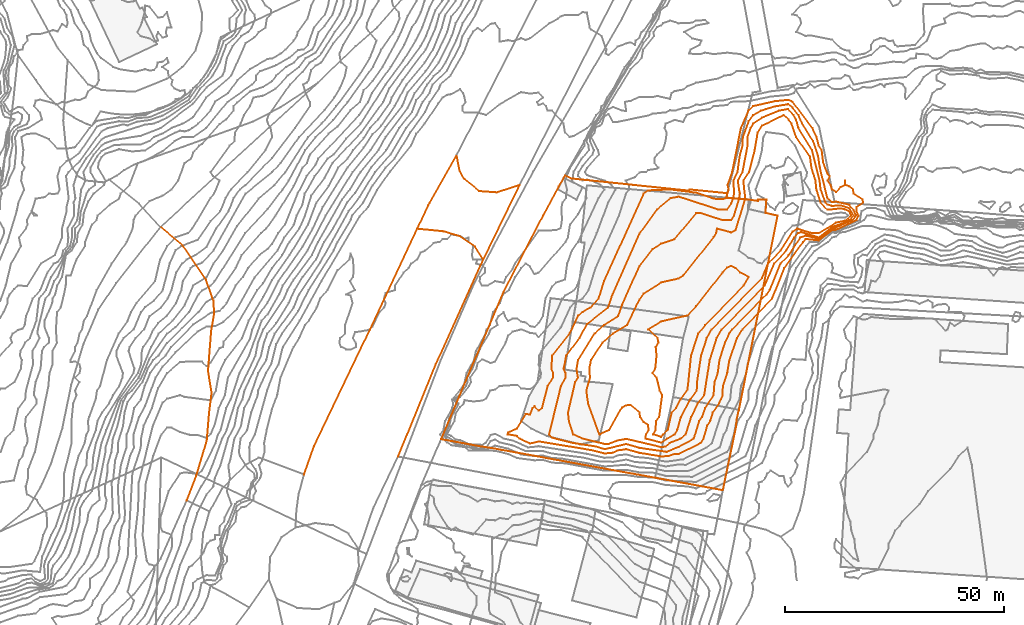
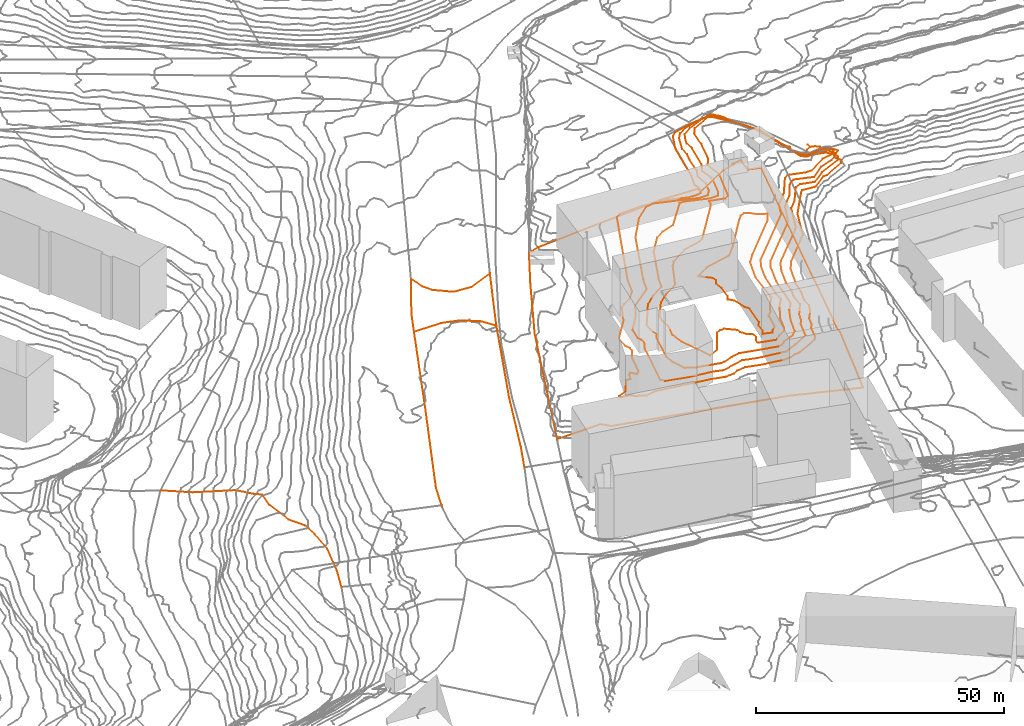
# Not in any storey, part 224 of 419: 13 proxies.
"""IFC2X3 model written with IfcOpenShell, lengths in metres."""

from ifc_helpers import new_model, entity, si_unit, frame, origin_with_axes, place, context, subcontext, project, element, save


model = new_model("IFC2X3")

# Units and contexts
model_context = context("Model", 3, precision=1e-05, world=origin_with_axes())
body_context = subcontext(model_context, "Body", "Model", "MODEL_VIEW")
ifc_project = project(units=[si_unit("AREAUNIT", "SQUARE_METRE"), si_unit("LENGTHUNIT", "METRE")], contexts=[model_context])

# Proxies
proxy_1_placement = place(None, frame((757.2920204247, 462.8976909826, 75.9), z_axis=(0.0, 0.0, 1.0), x_axis=(1.0, 0.0, 0.0)))
element("IfcBuildingElementProxy", 1, at=proxy_1_placement, Name="Route 56", ObjectType="NOTDEFINED", context=body_context, shape_type="GeometricCurveSet", body=[
    entity("IfcGeometricCurveSet", [entity("IfcPolyline", [entity("IfcCartesianPoint", [15.1000000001, -7.0, 0.4]), entity("IfcCartesianPoint", [13.2000000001, -4.0999999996, 0.4]), entity("IfcCartesianPoint", [9.7000000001, -1.7000000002, 0.4]), entity("IfcCartesianPoint", [6.0, -0.5999999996, 0.4]), entity("IfcCartesianPoint", [0.0, 0.0, 0.0])])]),
])
proxy_2_placement = place(None, frame((766.2920204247, 479.6976909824, 75.5), z_axis=(0.0, 0.0, 1.0), x_axis=(1.0, 0.0, 0.0)))
element("IfcBuildingElementProxy", 2, at=proxy_2_placement, Name="Route 203", ObjectType="NOTDEFINED", context=body_context, shape_type="GeometricCurveSet", body=[
    entity("IfcGeometricCurveSet", [entity("IfcPolyline", [entity("IfcCartesianPoint", [0.0, 0.0, 0.0]), entity("IfcCartesianPoint", [0.7000000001, -3.5, 0.0]), entity("IfcCartesianPoint", [1.8, -5.5, 0.0]), entity("IfcCartesianPoint", [5.2000000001, -8.2000000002, 0.0]), entity("IfcCartesianPoint", [9.2000000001, -8.5, 0.0]), entity("IfcCartesianPoint", [14.4, -6.7999999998, 0.5])])]),
])
proxy_3_placement = place(None, frame((752.8920204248, 410.7976909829, 75.7), z_axis=(0.0, 0.0, 1.0), x_axis=(1.0, 0.0, 0.0)))
element("IfcBuildingElementProxy", 3, at=proxy_3_placement, Name="Route 269", ObjectType="NOTDEFINED", context=body_context, shape_type="GeometricCurveSet", body=[
    entity("IfcGeometricCurveSet", [entity("IfcPolyline", [entity("IfcCartesianPoint", [19.5, 45.0999999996, 0.6]), entity("IfcCartesianPoint", [8.6, 21.0, 1.2]), entity("IfcCartesianPoint", [2.1, 5.0999999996, 1.2]), entity("IfcCartesianPoint", [0.0, 0.0, 0.0])])]),
])
proxy_4_placement = place(None, frame((698.5920204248, 463.2976909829, 57.2), z_axis=(0.0, 0.0, 1.0), x_axis=(1.0, 0.0, 0.0)))
element("IfcBuildingElementProxy", 4, at=proxy_4_placement, Name="Route 276", ObjectType="NOTDEFINED", context=body_context, shape_type="GeometricCurveSet", body=[
    entity("IfcGeometricCurveSet", [entity("IfcPolyline", [entity("IfcCartesianPoint", [0.0, 0.0, 0.0]), entity("IfcCartesianPoint", [5.1, -4.2000000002, 0.3]), entity("IfcCartesianPoint", [10.4, -12.0, 3.7]), entity("IfcCartesianPoint", [12.1, -16.8000000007, 5.1]), entity("IfcCartesianPoint", [12.3, -19.7000000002, 6.6]), entity("IfcCartesianPoint", [11.6, -23.8000000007, 6.8]), entity("IfcCartesianPoint", [10.9, -32.8000000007, 8.9]), entity("IfcCartesianPoint", [11.7, -37.9000000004, 10.3]), entity("IfcCartesianPoint", [11.1, -42.8000000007, 11.4]), entity("IfcCartesianPoint", [10.6, -48.8000000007, 11.6]), entity("IfcCartesianPoint", [8.2, -56.8000000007, 12.0]), entity("IfcCartesianPoint", [6.0, -62.5, 12.1])])]),
])
proxy_5_placement = place(None, frame((757.2920204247, 462.8976909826, 75.9), z_axis=(0.0, 0.0, 1.0), x_axis=(1.0, 0.0, 0.0)))
element("IfcBuildingElementProxy", 5, at=proxy_5_placement, Name="Route 295", ObjectType="NOTDEFINED", context=body_context, shape_type="GeometricCurveSet", body=[
    entity("IfcGeometricCurveSet", [entity("IfcPolyline", [entity("IfcCartesianPoint", [9.0, 16.7999999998, -0.4]), entity("IfcCartesianPoint", [2.8, 5.9000000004, 0.1]), entity("IfcCartesianPoint", [2.5, 5.2999999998, 0.1]), entity("IfcCartesianPoint", [0.0, 0.0, 0.0])])]),
])
proxy_6_placement = place(None, frame((731.3920204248, 406.6976909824, 76.0), z_axis=(0.0, 0.0, 1.0), x_axis=(1.0, 0.0, 0.0)))
element("IfcBuildingElementProxy", 6, at=proxy_6_placement, Name="Route 300", ObjectType="NOTDEFINED", context=body_context, shape_type="GeometricCurveSet", body=[
    entity("IfcGeometricCurveSet", [entity("IfcPolyline", [entity("IfcCartesianPoint", [25.8999999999, 56.2000000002, -0.1]), entity("IfcCartesianPoint", [15.1, 33.2000000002, -0.1]), entity("IfcCartesianPoint", [2.2999999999, 6.5, 0.0]), entity("IfcCartesianPoint", [0.0, 0.0, 0.0])])]),
])
proxy_7_placement = place(None, frame((772.3920204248, 455.8976909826, 76.3), z_axis=(0.0, 0.0, 1.0), x_axis=(1.0, 0.0, 0.0)))
element("IfcBuildingElementProxy", 7, at=proxy_7_placement, Name="Route 303", ObjectType="NOTDEFINED", context=body_context, shape_type="GeometricCurveSet", body=[
    entity("IfcGeometricCurveSet", [entity("IfcPolyline", [entity("IfcCartesianPoint", [8.2999999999, 17.0, -0.3]), entity("IfcCartesianPoint", [0.0, 0.0, 0.0])])]),
])
proxy_8_placement = place(None, frame((762.7720204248, 414.7776909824, 76.7780593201), z_axis=(0.0, 0.0, 1.0), x_axis=(1.0, 0.0, 0.0)))
element("IfcBuildingElementProxy", 8, at=proxy_8_placement, Name="Cadastre 100", ObjectType="NOTDEFINED", context=body_context, shape_type="GeometricCurveSet", body=[
    entity("IfcGeometricCurveSet", [entity("IfcPolyline", [entity("IfcCartesianPoint", [64.39, -11.6699999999, -2.8217717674]), entity("IfcCartesianPoint", [48.9299999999, -8.8199999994, -1.1335741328]), entity("IfcCartesianPoint", [13.77, -2.4399999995, 0.324180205]), entity("IfcCartesianPoint", [11.4099999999, -2.0, 0.386609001]), entity("IfcCartesianPoint", [9.15, -1.6699999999, 1.4653300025]), entity("IfcCartesianPoint", [0.0, 0.0, 0.0]), entity("IfcCartesianPoint", [14.23, 33.6800000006, 0.5052916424]), entity("IfcCartesianPoint", [23.3199999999, 51.1800000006, -1.0532582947]), entity("IfcCartesianPoint", [26.88, 57.7200000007, -1.1251184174]), entity("IfcCartesianPoint", [28.2799999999, 60.2999999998, -0.6932037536]), entity("IfcCartesianPoint", [29.83, 59.5899999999, 0.4887645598]), entity("IfcCartesianPoint", [56.6699999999, 56.8100000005, 4.3936516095]), entity("IfcCartesianPoint", [56.7899999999, 57.0899999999, 4.1760670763]), entity("IfcCartesianPoint", [65.4199999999, 56.2200000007, 4.5519412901]), entity("IfcCartesianPoint", [65.34, 55.71, 4.5979417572]), entity("IfcCartesianPoint", [65.1699999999, 55.1900000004, 4.6012165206]), entity("IfcCartesianPoint", [70.3199999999, 54.7800000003, 8.298340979]), entity("IfcCartesianPoint", [72.4299999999, 54.46, 9.0088184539]), entity("IfcCartesianPoint", [72.4399999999, 54.8200000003, 9.0466628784]), entity("IfcCartesianPoint", [74.36, 54.7800000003, 9.2723060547]), entity("IfcCartesianPoint", [74.15, 51.7200000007, 8.8589192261]), entity("IfcCartesianPoint", [76.9, 51.1000000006, 8.7316070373]), entity("IfcCartesianPoint", [68.0599999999, 6.7200000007, 1.4665373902]), entity("IfcCartesianPoint", [67.5399999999, 4.4900000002, 1.0996068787]), entity("IfcCartesianPoint", [67.4, 2.8100000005, 0.9891389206]), entity("IfcCartesianPoint", [64.39, -11.6699999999, -2.8217717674])])]),
])
proxy_9_placement = place(None, frame((810.0920061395, 439.8976909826, 85.0), z_axis=(0.0, 0.0, 1.0), x_axis=(1.0, 0.0, 0.0)))
element("IfcBuildingElementProxy", 9, at=proxy_9_placement, Name="Contour 85.0 m", ObjectType="NOTDEFINED", context=body_context, shape_type="GeometricCurveSet", body=[
    entity("IfcGeometricCurveSet", [entity("IfcPolyline", [entity("IfcCartesianPoint", [3.3773678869, -24.0, 0.0]), entity("IfcCartesianPoint", [3.0000142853, -24.5714223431, 0.0]), entity("IfcCartesianPoint", [1.0869578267, -24.0, 0.0]), entity("IfcCartesianPoint", [1.6875187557, -23.0, 0.0]), entity("IfcCartesianPoint", [1.8181929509, -21.0, 0.0]), entity("IfcCartesianPoint", [2.526325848, -20.0, 0.0]), entity("IfcCartesianPoint", [3.2105427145, -15.0, 0.0]), entity("IfcCartesianPoint", [2.666680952, -14.0, 0.0]), entity("IfcCartesianPoint", [1.9565273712, -11.0, 0.0]), entity("IfcCartesianPoint", [1.0000124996, -10.0, 0.0]), entity("IfcCartesianPoint", [1.6315995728, -9.0, 0.0]), entity("IfcCartesianPoint", [1.9200124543, -6.0, 0.0]), entity("IfcCartesianPoint", [1.7544011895, -4.0, 0.0]), entity("IfcCartesianPoint", [2.3333381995, -3.0, 0.0]), entity("IfcCartesianPoint", [2.1600179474, -2.0, 0.0]), entity("IfcCartesianPoint", [0.0, 0.0, 0.0]), entity("IfcCartesianPoint", [3.0000142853, 1.8182007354, 0.0]), entity("IfcCartesianPoint", [9.0000142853, 3.1817992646, 0.0]), entity("IfcCartesianPoint", [11.0000142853, 5.333333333, 0.0]), entity("IfcCartesianPoint", [17.0000142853, 13.0000099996, 0.0]), entity("IfcCartesianPoint", [18.0000142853, 14.1250238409, 0.0]), entity("IfcCartesianPoint", [19.0000142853, 14.5000499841, 0.0]), entity("IfcCartesianPoint", [20.0000142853, 14.0000500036, 0.0]), entity("IfcCartesianPoint", [21.0000142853, 13.0000500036, 0.0]), entity("IfcCartesianPoint", [23.0000642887, 12.0, 0.0]), entity("IfcCartesianPoint", [21.8333264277, 10.0, 0.0]), entity("IfcCartesianPoint", [13.0714402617, 1.0, 0.0]), entity("IfcCartesianPoint", [11.4418801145, -1.0, 0.0]), entity("IfcCartesianPoint", [9.8125217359, -6.0, 0.0]), entity("IfcCartesianPoint", [9.0000142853, -13.8182007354, 0.0]), entity("IfcCartesianPoint", [7.3695762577, -16.0, 0.0]), entity("IfcCartesianPoint", [6.3421147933, -18.0, 0.0]), entity("IfcCartesianPoint", [5.3871134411, -19.0, 0.0]), entity("IfcCartesianPoint", [4.4782787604, -23.0, 0.0]), entity("IfcCartesianPoint", [3.3773678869, -24.0, 0.0])])]),
])
proxy_10_placement = place(None, frame((795.9708062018, 425.8976909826, 84.0), z_axis=(0.0, 0.0, 1.0), x_axis=(1.0, 0.0, 0.0)))
element("IfcBuildingElementProxy", 10, at=proxy_10_placement, Name="Contour 84.0 m", ObjectType="NOTDEFINED", context=body_context, shape_type="GeometricCurveSet", body=[
    entity("IfcGeometricCurveSet", [entity("IfcPolyline", [entity("IfcCartesianPoint", [18.4767742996, -11.0, 0.0]), entity("IfcCartesianPoint", [17.121214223, -11.904258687, 0.0]), entity("IfcCartesianPoint", [13.5021700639, -11.0, 0.0]), entity("IfcCartesianPoint", [13.6212108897, -10.0, 0.0]), entity("IfcCartesianPoint", [14.2031863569, -9.0, 0.0]), entity("IfcCartesianPoint", [14.121214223, -7.8571117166, 0.0]), entity("IfcCartesianPoint", [13.121214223, -7.2000305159, 0.0]), entity("IfcCartesianPoint", [12.3030134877, -6.0, 0.0]), entity("IfcCartesianPoint", [12.1211975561, -5.0, 0.0]), entity("IfcCartesianPoint", [10.121214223, -3.3332909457, 0.0]), entity("IfcCartesianPoint", [9.121214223, -3.3749761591, 0.0]), entity("IfcCartesianPoint", [8.121214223, -3.8333121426, 0.0]), entity("IfcCartesianPoint", [5.1878786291, -9.0, 0.0]), entity("IfcCartesianPoint", [2.9783804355, -10.0, 0.0]), entity("IfcCartesianPoint", [0.4153397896, -3.0, 0.0]), entity("IfcCartesianPoint", [0.0, 0.0, 0.0]), entity("IfcCartesianPoint", [0.8434411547, 3.0, 0.0]), entity("IfcCartesianPoint", [0.6800384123, 5.0, 0.0]), entity("IfcCartesianPoint", [1.0606172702, 7.0, 0.0]), entity("IfcCartesianPoint", [3.6864301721, 11.0, 0.0]), entity("IfcCartesianPoint", [6.121214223, 13.0689555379, 0.0]), entity("IfcCartesianPoint", [9.3135320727, 15.0, 0.0]), entity("IfcCartesianPoint", [12.121214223, 20.8461764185, 0.0]), entity("IfcCartesianPoint", [13.121214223, 22.1538235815, 0.0]), entity("IfcCartesianPoint", [17.121214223, 24.7272853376, 0.0]), entity("IfcCartesianPoint", [21.121214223, 25.6363573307, 0.0]), entity("IfcCartesianPoint", [22.121214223, 26.2999923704, 0.0]), entity("IfcCartesianPoint", [29.121214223, 35.1000228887, 0.0]), entity("IfcCartesianPoint", [29.683705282, 36.0, 0.0]), entity("IfcCartesianPoint", [29.858043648, 37.0, 0.0]), entity("IfcCartesianPoint", [33.121214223, 36.1724237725, 0.0]), entity("IfcCartesianPoint", [34.121214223, 36.6829304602, 0.0]), entity("IfcCartesianPoint", [36.337433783, 44.0, 0.0]), entity("IfcCartesianPoint", [35.8824048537, 48.0, 0.0]), entity("IfcCartesianPoint", [37.2022922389, 50.0, 0.0]), entity("IfcCartesianPoint", [38.4866005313, 55.0, 0.0]), entity("IfcCartesianPoint", [39.1545420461, 59.0, 0.0]), entity("IfcCartesianPoint", [40.121214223, 60.5416673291, 0.0]), entity("IfcCartesianPoint", [45.121214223, 62.9687432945, 0.0]), entity("IfcCartesianPoint", [46.242428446, 62.0, 0.0]), entity("IfcCartesianPoint", [46.888659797, 61.0, 0.0]), entity("IfcCartesianPoint", [47.9643485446, 58.0, 0.0]), entity("IfcCartesianPoint", [51.121214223, 53.4545359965, 0.0]), entity("IfcCartesianPoint", [51.4612105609, 51.0, 0.0]), entity("IfcCartesianPoint", [52.3808280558, 48.0, 0.0]), entity("IfcCartesianPoint", [52.587234, 46.0, 0.0]), entity("IfcCartesianPoint", [53.5559993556, 43.0, 0.0]), entity("IfcCartesianPoint", [55.121214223, 41.3291162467, 0.0]), entity("IfcCartesianPoint", [58.121214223, 41.6335866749, 0.0]), entity("IfcCartesianPoint", [59.121214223, 41.4277113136, 0.0]), entity("IfcCartesianPoint", [60.121214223, 40.8988804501, 0.0]), entity("IfcCartesianPoint", [60.5536468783, 40.0, 0.0]), entity("IfcCartesianPoint", [59.121214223, 38.8084291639, 0.0]), entity("IfcCartesianPoint", [57.121214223, 38.4000000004, 0.0]), entity("IfcCartesianPoint", [53.121214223, 35.9690734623, 0.0]), entity("IfcCartesianPoint", [51.5101007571, 36.0, 0.0]), entity("IfcCartesianPoint", [48.121214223, 37.0088514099, 0.0]), entity("IfcCartesianPoint", [47.121214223, 36.3124955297, 0.0]), entity("IfcCartesianPoint", [44.3878768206, 32.0, 0.0]), entity("IfcCartesianPoint", [41.5069253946, 29.0, 0.0]), entity("IfcCartesianPoint", [40.121214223, 25.7249995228, 0.0]), entity("IfcCartesianPoint", [28.5984822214, 14.0, 0.0]), entity("IfcCartesianPoint", [27.5212176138, 12.0, 0.0]), entity("IfcCartesianPoint", [26.2348568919, 8.0, 0.0]), entity("IfcCartesianPoint", [25.3012068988, 2.0, 0.0]), entity("IfcCartesianPoint", [25.2412093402, 0.0, 0.0]), entity("IfcCartesianPoint", [23.7402583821, -2.0, 0.0]), entity("IfcCartesianPoint", [21.6212163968, -6.0, 0.0]), entity("IfcCartesianPoint", [20.7733852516, -9.0, 0.0]), entity("IfcCartesianPoint", [20.1837037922, -10.0, 0.0]), entity("IfcCartesianPoint", [18.4767742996, -11.0, 0.0])])]),
])
proxy_11_placement = place(None, frame((791.7795248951, 420.8976909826, 83.0), z_axis=(0.0, 0.0, 1.0), x_axis=(1.0, 0.0, 0.0)))
element("IfcBuildingElementProxy", 11, at=proxy_11_placement, Name="Contour 83.0 m", ObjectType="NOTDEFINED", context=body_context, shape_type="GeometricCurveSet", body=[
    entity("IfcGeometricCurveSet", [entity("IfcPolyline", [entity("IfcCartesianPoint", [23.1615483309, -7.0, 0.0]), entity("IfcCartesianPoint", [22.3124955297, -7.8035694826, 0.0]), entity("IfcCartesianPoint", [21.3124955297, -7.9479138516, 0.0]), entity("IfcCartesianPoint", [13.3124955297, -6.0470599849, 0.0]), entity("IfcCartesianPoint", [11.3124955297, -6.3999964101, 0.0]), entity("IfcCartesianPoint", [9.3124955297, -7.1785724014, 0.0]), entity("IfcCartesianPoint", [8.3124955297, -7.2162195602, 0.0]), entity("IfcCartesianPoint", [3.3124878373, -6.0, 0.0]), entity("IfcCartesianPoint", [1.2014032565, -5.0, 0.0]), entity("IfcCartesianPoint", [0.2125107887, -2.0, 0.0]), entity("IfcCartesianPoint", [0.0, 0.0, 0.0]), entity("IfcCartesianPoint", [1.645828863, 7.0, 0.0]), entity("IfcCartesianPoint", [2.2553620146, 8.0, 0.0]), entity("IfcCartesianPoint", [1.9595503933, 10.0, 0.0]), entity("IfcCartesianPoint", [2.2821861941, 12.0, 0.0]), entity("IfcCartesianPoint", [6.0161971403, 18.0, 0.0]), entity("IfcCartesianPoint", [8.2724869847, 20.0, 0.0]), entity("IfcCartesianPoint", [11.4553589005, 22.0, 0.0]), entity("IfcCartesianPoint", [12.3124955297, 24.5384705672, 0.0]), entity("IfcCartesianPoint", [16.3124955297, 33.5000071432, 0.0]), entity("IfcCartesianPoint", [19.3124955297, 37.333333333, 0.0]), entity("IfcCartesianPoint", [21.3124955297, 38.5833174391, 0.0]), entity("IfcCartesianPoint", [24.3124955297, 39.5999847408, 0.0]), entity("IfcCartesianPoint", [29.3124955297, 45.5999847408, 0.0]), entity("IfcCartesianPoint", [30.3124955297, 45.5714259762, 0.0]), entity("IfcCartesianPoint", [35.3124955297, 43.9361729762, 0.0]), entity("IfcCartesianPoint", [37.3124955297, 44.0000023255, 0.0]), entity("IfcCartesianPoint", [37.9448486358, 45.0, 0.0]), entity("IfcCartesianPoint", [39.1267843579, 49.0, 0.0]), entity("IfcCartesianPoint", [39.274996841, 50.0, 0.0]), entity("IfcCartesianPoint", [38.8175471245, 53.0, 0.0]), entity("IfcCartesianPoint", [39.8806791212, 55.0, 0.0]), entity("IfcCartesianPoint", [41.0481246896, 61.0, 0.0]), entity("IfcCartesianPoint", [41.0013863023, 63.0, 0.0]), entity("IfcCartesianPoint", [41.7428742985, 65.0, 0.0]), entity("IfcCartesianPoint", [42.3124955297, 66.0434710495, 0.0]), entity("IfcCartesianPoint", [44.3124955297, 67.3793112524, 0.0]), entity("IfcCartesianPoint", [48.2458390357, 69.0, 0.0]), entity("IfcCartesianPoint", [50.3124955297, 69.3720924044, 0.0]), entity("IfcCartesianPoint", [51.5516277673, 68.0, 0.0]), entity("IfcCartesianPoint", [52.128583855, 67.0, 0.0]), entity("IfcCartesianPoint", [52.6654334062, 65.0, 0.0]), entity("IfcCartesianPoint", [55.7812427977, 60.0, 0.0]), entity("IfcCartesianPoint", [57.5074135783, 53.0, 0.0]), entity("IfcCartesianPoint", [57.7493862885, 51.0, 0.0]), entity("IfcCartesianPoint", [58.8399696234, 48.0, 0.0]), entity("IfcCartesianPoint", [59.3124955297, 47.5222226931, 0.0]), entity("IfcCartesianPoint", [60.3124955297, 47.2016797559, 0.0]), entity("IfcCartesianPoint", [62.3124955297, 47.3151506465, 0.0]), entity("IfcCartesianPoint", [64.3124955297, 46.6642349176, 0.0]), entity("IfcCartesianPoint", [65.2854669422, 45.0, 0.0]), entity("IfcCartesianPoint", [64.3498111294, 44.0, 0.0]), entity("IfcCartesianPoint", [63.3124955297, 43.4252874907, 0.0]), entity("IfcCartesianPoint", [60.3124955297, 42.3776596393, 0.0]), entity("IfcCartesianPoint", [57.3124955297, 39.9802639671, 0.0]), entity("IfcCartesianPoint", [53.3124955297, 41.2107625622, 0.0]), entity("IfcCartesianPoint", [52.5544324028, 41.0, 0.0]), entity("IfcCartesianPoint", [51.6677568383, 40.0, 0.0]), entity("IfcCartesianPoint", [49.8612725, 37.0, 0.0]), entity("IfcCartesianPoint", [47.1267843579, 34.0, 0.0]), entity("IfcCartesianPoint", [44.9429335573, 29.0, 0.0]), entity("IfcCartesianPoint", [35.1220141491, 19.0, 0.0]), entity("IfcCartesianPoint", [33.9715848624, 17.0, 0.0]), entity("IfcCartesianPoint", [32.3994542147, 12.0, 0.0]), entity("IfcCartesianPoint", [31.1288287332, 4.0, 0.0]), entity("IfcCartesianPoint", [29.6236073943, 2.0, 0.0]), entity("IfcCartesianPoint", [28.1773531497, -1.0, 0.0]), entity("IfcCartesianPoint", [26.8777186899, -5.0, 0.0]), entity("IfcCartesianPoint", [25.7125006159, -6.0, 0.0]), entity("IfcCartesianPoint", [23.1615483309, -7.0, 0.0])])]),
])
proxy_12_placement = place(None, frame((787.4398493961, 415.8976909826, 82.0), z_axis=(0.0, 0.0, 1.0), x_axis=(1.0, 0.0, 0.0)))
element("IfcBuildingElementProxy", 12, at=proxy_12_placement, Name="Contour 82.0 m", ObjectType="NOTDEFINED", context=body_context, shape_type="GeometricCurveSet", body=[
    entity("IfcGeometricCurveSet", [entity("IfcPolyline", [entity("IfcCartesianPoint", [26.8229036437, -4.0, 0.0]), entity("IfcCartesianPoint", [20.6521710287, -3.1046477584, 0.0]), entity("IfcCartesianPoint", [17.6521710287, -2.2261923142, 0.0]), entity("IfcCartesianPoint", [12.6521710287, -3.411764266, 0.0]), entity("IfcCartesianPoint", [10.6521710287, -2.7799987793, 0.0]), entity("IfcCartesianPoint", [5.4521812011, -2.0, 0.0]), entity("IfcCartesianPoint", [0.6521710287, -0.7894715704, 0.0]), entity("IfcCartesianPoint", [0.0, 0.0, 0.0]), entity("IfcCartesianPoint", [2.7127679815, 11.0, 0.0]), entity("IfcCartesianPoint", [3.7378822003, 13.0, 0.0]), entity("IfcCartesianPoint", [3.7355008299, 14.0, 0.0]), entity("IfcCartesianPoint", [3.366459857, 15.0, 0.0]), entity("IfcCartesianPoint", [3.9102371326, 18.0, 0.0]), entity("IfcCartesianPoint", [6.9424840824, 22.0, 0.0]), entity("IfcCartesianPoint", [8.6521710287, 25.2142779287, 0.0]), entity("IfcCartesianPoint", [13.5142372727, 29.0, 0.0]), entity("IfcCartesianPoint", [14.4959113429, 32.0, 0.0]), entity("IfcCartesianPoint", [20.6521710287, 45.8461764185, 0.0]), entity("IfcCartesianPoint", [24.6521710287, 51.3846244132, 0.0]), entity("IfcCartesianPoint", [27.7633009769, 54.0, 0.0]), entity("IfcCartesianPoint", [29.6521710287, 54.3220358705, 0.0]), entity("IfcCartesianPoint", [38.6521710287, 51.3958356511, 0.0]), entity("IfcCartesianPoint", [40.6521710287, 51.3721012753, 0.0]), entity("IfcCartesianPoint", [41.6521710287, 52.7000076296, 0.0]), entity("IfcCartesianPoint", [42.3235969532, 55.0, 0.0]), entity("IfcCartesianPoint", [42.1521700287, 58.0, 0.0]), entity("IfcCartesianPoint", [43.0774601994, 60.0, 0.0]), entity("IfcCartesianPoint", [43.6521699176, 64.0, 0.0]), entity("IfcCartesianPoint", [44.23837853, 66.0, 0.0]), entity("IfcCartesianPoint", [44.3067185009, 68.0, 0.0]), entity("IfcCartesianPoint", [45.6521710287, 71.6136359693, 0.0]), entity("IfcCartesianPoint", [46.6521710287, 72.949154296, 0.0]), entity("IfcCartesianPoint", [48.4438297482, 74.0, 0.0]), entity("IfcCartesianPoint", [51.6521710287, 74.9729774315, 0.0]), entity("IfcCartesianPoint", [54.6521710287, 75.4466015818, 0.0]), entity("IfcCartesianPoint", [55.6521710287, 74.7096782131, 0.0]), entity("IfcCartesianPoint", [57.0010115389, 73.0, 0.0]), entity("IfcCartesianPoint", [57.898547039, 71.0, 0.0]), entity("IfcCartesianPoint", [60.3736887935, 67.0, 0.0]), entity("IfcCartesianPoint", [61.4372145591, 64.0, 0.0]), entity("IfcCartesianPoint", [61.9068854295, 61.0, 0.0]), entity("IfcCartesianPoint", [63.6521710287, 53.9047653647, 0.0]), entity("IfcCartesianPoint", [64.6521710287, 53.0568213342, 0.0]), entity("IfcCartesianPoint", [65.6521710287, 53.2053596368, 0.0]), entity("IfcCartesianPoint", [68.6521710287, 52.4390239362, 0.0]), entity("IfcCartesianPoint", [69.6521710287, 51.2337676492, 0.0]), entity("IfcCartesianPoint", [70.1656833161, 50.0, 0.0]), entity("IfcCartesianPoint", [69.4357530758, 49.0, 0.0]), entity("IfcCartesianPoint", [64.6521710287, 46.9196673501, 0.0]), entity("IfcCartesianPoint", [61.6521710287, 44.6513166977, 0.0]), entity("IfcCartesianPoint", [58.6521710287, 45.4042554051, 0.0]), entity("IfcCartesianPoint", [57.4367878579, 45.0, 0.0]), entity("IfcCartesianPoint", [54.8003216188, 41.0, 0.0]), entity("IfcCartesianPoint", [52.8950266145, 39.0, 0.0]), entity("IfcCartesianPoint", [50.4416397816, 33.0, 0.0]), entity("IfcCartesianPoint", [49.7133932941, 32.0, 0.0]), entity("IfcCartesianPoint", [41.8188376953, 24.0, 0.0]), entity("IfcCartesianPoint", [41.1976271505, 23.0, 0.0]), entity("IfcCartesianPoint", [40.2203496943, 21.0, 0.0]), entity("IfcCartesianPoint", [38.9703496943, 17.0, 0.0]), entity("IfcCartesianPoint", [38.5652123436, 14.0, 0.0]), entity("IfcCartesianPoint", [37.8478156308, 12.0, 0.0]), entity("IfcCartesianPoint", [37.6096243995, 9.0, 0.0]), entity("IfcCartesianPoint", [35.6966083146, 6.0, 0.0]), entity("IfcCartesianPoint", [34.9713223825, 4.0, 0.0]), entity("IfcCartesianPoint", [34.3107057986, 3.0, 0.0]), entity("IfcCartesianPoint", [33.0807450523, -1.0, 0.0]), entity("IfcCartesianPoint", [29.6521710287, -2.8666632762, 0.0]), entity("IfcCartesianPoint", [26.8229036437, -4.0, 0.0])])]),
])
proxy_13_placement = place(None, frame((777.9341341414, 415.8976909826, 81.0), z_axis=(0.0, 0.0, 1.0), x_axis=(1.0, 0.0, 0.0)))
element("IfcBuildingElementProxy", 13, at=proxy_13_placement, Name="Contour 81.0 m", ObjectType="NOTDEFINED", context=body_context, shape_type="GeometricCurveSet", body=[
    entity("IfcGeometricCurveSet", [entity("IfcPolyline", [entity("IfcCartesianPoint", [36.6936083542, -5.0, 0.0]), entity("IfcCartesianPoint", [35.1578862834, -5.0520861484, 0.0]), entity("IfcCartesianPoint", [30.1578862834, -4.2527499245, 0.0]), entity("IfcCartesianPoint", [27.1578862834, -3.4117636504, 0.0]), entity("IfcCartesianPoint", [25.1578862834, -3.6853944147, 0.0]), entity("IfcCartesianPoint", [24.1578862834, -4.212763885, 0.0]), entity("IfcCartesianPoint", [22.1578862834, -4.3960402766, 0.0]), entity("IfcCartesianPoint", [19.1578862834, -3.623763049, 0.0]), entity("IfcCartesianPoint", [7.1578862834, -1.6375002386, 0.0]), entity("IfcCartesianPoint", [5.1578862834, -2.1047621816, 0.0]), entity("IfcCartesianPoint", [2.7328924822, -1.0, 0.0]), entity("IfcCartesianPoint", [2.1578862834, -0.3611028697, 0.0]), entity("IfcCartesianPoint", [0.0, 0.0, 0.0]), entity("IfcCartesianPoint", [0.1578862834, 0.4285558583, 0.0]), entity("IfcCartesianPoint", [2.1578862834, 1.3332909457, 0.0]), entity("IfcCartesianPoint", [4.1578862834, 4.6153755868, 0.0]), entity("IfcCartesianPoint", [5.1578862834, 4.5384705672, 0.0]), entity("IfcCartesianPoint", [5.7134386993, 6.0, 0.0]), entity("IfcCartesianPoint", [6.1578862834, 6.4444475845, 0.0]), entity("IfcCartesianPoint", [7.1578862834, 5.4074032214, 0.0]), entity("IfcCartesianPoint", [7.8851716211, 6.0, 0.0]), entity("IfcCartesianPoint", [9.1881956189, 11.0, 0.0]), entity("IfcCartesianPoint", [10.38646394, 13.0, 0.0]), entity("IfcCartesianPoint", [10.4634430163, 14.0, 0.0]), entity("IfcCartesianPoint", [10.0467728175, 15.0, 0.0]), entity("IfcCartesianPoint", [10.2203758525, 18.0, 0.0]), entity("IfcCartesianPoint", [14.1891429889, 23.0, 0.0]), entity("IfcCartesianPoint", [16.1578862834, 27.1111079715, 0.0]), entity("IfcCartesianPoint", [17.1578862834, 28.0000033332, 0.0]), entity("IfcCartesianPoint", [18.9912266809, 29.0, 0.0]), entity("IfcCartesianPoint", [20.8150272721, 31.0, 0.0]), entity("IfcCartesianPoint", [22.0641400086, 35.0, 0.0]), entity("IfcCartesianPoint", [31.1578862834, 55.0625119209, 0.0]), entity("IfcCartesianPoint", [32.1578862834, 55.750007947, 0.0]), entity("IfcCartesianPoint", [37.1578862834, 55.9746875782, 0.0]), entity("IfcCartesianPoint", [43.1578862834, 55.2089548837, 0.0]), entity("IfcCartesianPoint", [47.1578862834, 53.8541683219, 0.0]), entity("IfcCartesianPoint", [49.1578862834, 53.7441848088, 0.0]), entity("IfcCartesianPoint", [49.9436083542, 54.0, 0.0]), entity("IfcCartesianPoint", [50.5931805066, 56.0, 0.0]), entity("IfcCartesianPoint", [50.3307255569, 57.0, 0.0]), entity("IfcCartesianPoint", [51.3801095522, 60.0, 0.0]), entity("IfcCartesianPoint", [53.3600160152, 70.0, 0.0]), entity("IfcCartesianPoint", [55.1578862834, 74.0749966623, 0.0]), entity("IfcCartesianPoint", [56.1578862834, 75.0263115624, 0.0]), entity("IfcCartesianPoint", [61.1578862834, 76.16470546, 0.0]), entity("IfcCartesianPoint", [64.1578862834, 76.447917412, 0.0]), entity("IfcCartesianPoint", [65.2245570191, 76.0, 0.0]), entity("IfcCartesianPoint", [69.7047594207, 70.0, 0.0]), entity("IfcCartesianPoint", [70.6639070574, 68.0, 0.0]), entity("IfcCartesianPoint", [71.1478841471, 66.0, 0.0]), entity("IfcCartesianPoint", [71.8332095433, 65.0, 0.0]), entity("IfcCartesianPoint", [72.1578862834, 62.25, 0.0]), entity("IfcCartesianPoint", [73.1578862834, 59.5789431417, 0.0]), entity("IfcCartesianPoint", [73.6817009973, 59.0, 0.0]), entity("IfcCartesianPoint", [73.2245665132, 58.0, 0.0]), entity("IfcCartesianPoint", [73.9078767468, 57.0, 0.0]), entity("IfcCartesianPoint", [74.1578862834, 56.0000199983, 0.0]), entity("IfcCartesianPoint", [75.1578862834, 55.39996948, 0.0]), entity("IfcCartesianPoint", [76.1578862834, 56.5000166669, 0.0]), entity("IfcCartesianPoint", [77.1578529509, 57.0, 0.0]), entity("IfcCartesianPoint", [77.1579196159, 58.0, 0.0]), entity("IfcCartesianPoint", [77.1579362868, 57.0, 0.0]), entity("IfcCartesianPoint", [78.1578862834, 56.6667090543, 0.0]), entity("IfcCartesianPoint", [78.9578557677, 56.0, 0.0]), entity("IfcCartesianPoint", [79.1579029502, 55.0, 0.0]), entity("IfcCartesianPoint", [81.1578862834, 53.666666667, 0.0]), entity("IfcCartesianPoint", [81.3343515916, 53.0, 0.0]), entity("IfcCartesianPoint", [79.8191795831, 52.0, 0.0]), entity("IfcCartesianPoint", [79.7957248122, 51.0, 0.0]), entity("IfcCartesianPoint", [80.2137513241, 50.0, 0.0]), entity("IfcCartesianPoint", [79.7545229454, 49.0, 0.0]), entity("IfcCartesianPoint", [75.1578862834, 46.7553954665, 0.0]), entity("IfcCartesianPoint", [74.1578862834, 46.6426590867, 0.0]), entity("IfcCartesianPoint", [71.1578862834, 44.3223694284, 0.0]), entity("IfcCartesianPoint", [68.1578862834, 44.6417932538, 0.0]), entity("IfcCartesianPoint", [67.5688474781, 44.0, 0.0]), entity("IfcCartesianPoint", [63.2811696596, 38.0, 0.0]), entity("IfcCartesianPoint", [60.4799221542, 31.0, 0.0]), entity("IfcCartesianPoint", [53.6927774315, 24.0, 0.0]), entity("IfcCartesianPoint", [52.4602052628, 22.0, 0.0]), entity("IfcCartesianPoint", [50.7260649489, 17.0, 0.0]), entity("IfcCartesianPoint", [50.2448449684, 14.0, 0.0]), entity("IfcCartesianPoint", [49.2363191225, 11.0, 0.0]), entity("IfcCartesianPoint", [49.2167071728, 9.0, 0.0]), entity("IfcCartesianPoint", [48.3397076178, 7.0, 0.0]), entity("IfcCartesianPoint", [46.9356659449, 5.0, 0.0]), entity("IfcCartesianPoint", [46.3493704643, 3.0, 0.0]), entity("IfcCartesianPoint", [45.6695166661, 2.0, 0.0]), entity("IfcCartesianPoint", [44.810057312, -1.0, 0.0]), entity("IfcCartesianPoint", [44.1873039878, -2.0, 0.0]), entity("IfcCartesianPoint", [39.1578862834, -4.4647919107, 0.0]), entity("IfcCartesianPoint", [38.1578862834, -4.4687552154, 0.0]), entity("IfcCartesianPoint", [36.6936083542, -5.0, 0.0])])]),
])

save(model, "model.ifc")
